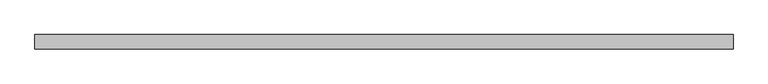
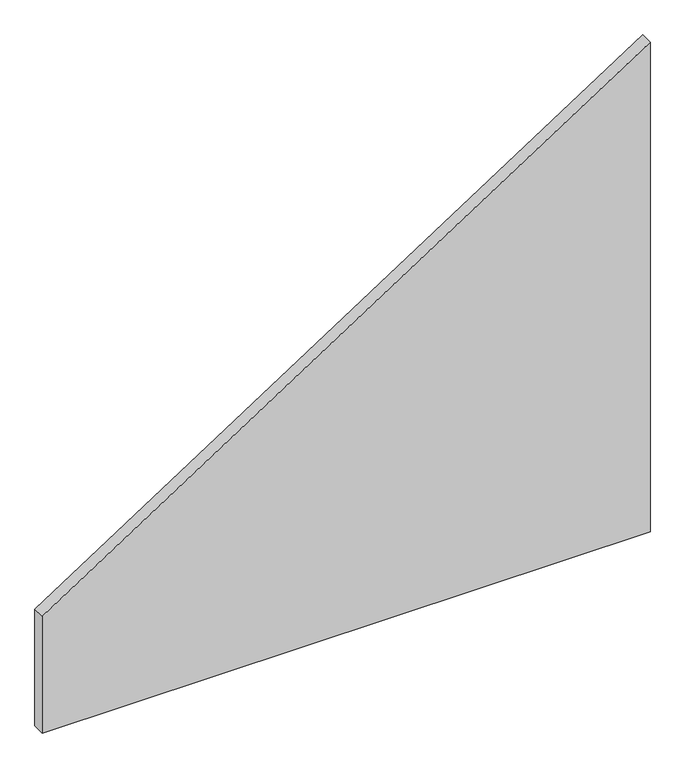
"""IFC4 building model written with IfcOpenShell, lengths in millimetres: plate geometry, Системная панель : С остеклением."""

from ifc_helpers import new_model, si_unit, frame, origin, place, context, project, spatial, polyline, outline, extrude, source, transform, mapped, element, save


def plate_a0b081b6(model_context):
    return source(origin(), model_context, "Body", "SweptSolid", [
        extrude(outline(polyline([(0.0, -609.375), (0.0, 609.375), (1037.9799239, 609.375), (247.8276645, -609.375), (0.0, -609.375)])), frame((0.0, 24.5, 0.0), z_axis=(0.0, 1.0, 0.0), x_axis=(0.0, 0.0, 1.0)), (0.0, 0.0, 1.0), 25.0),
    ])


if __name__ == "__main__":
    model = new_model("IFC4")
    model_context = context("Model", 3, world=origin())
    ifc_project = project(units=[si_unit("LENGTHUNIT", "METRE", prefix="MILLI")], contexts=[model_context])
    site = spatial("IfcSite", under=ifc_project)
    building = spatial("IfcBuilding", under=site)
    placement = place(None, origin())
    plate_shape = plate_a0b081b6(model_context)
    element("IfcPlate", 1, ObjectType="Системная панель : С остеклением", at=placement, inside=building, context=model_context, shape_type="MappedRepresentation", body=[
        mapped(plate_shape, transform((0.0, 0.0, 0.0), x_axis=(1.0, 0.0, 0.0), y_axis=(0.0, 1.0, 0.0), z_axis=(0.0, 0.0, 1.0))),
    ])
    save(model, "model.ifc")
